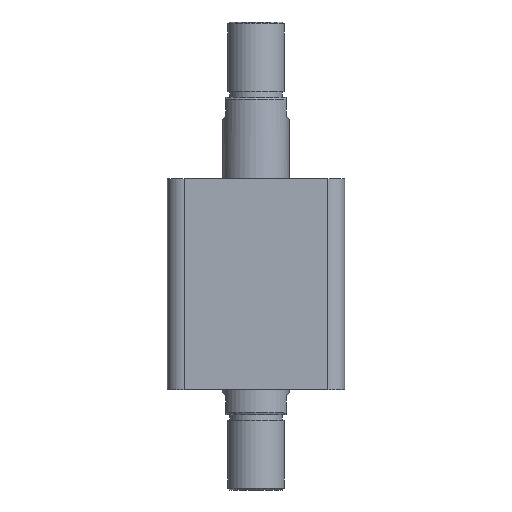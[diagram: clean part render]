
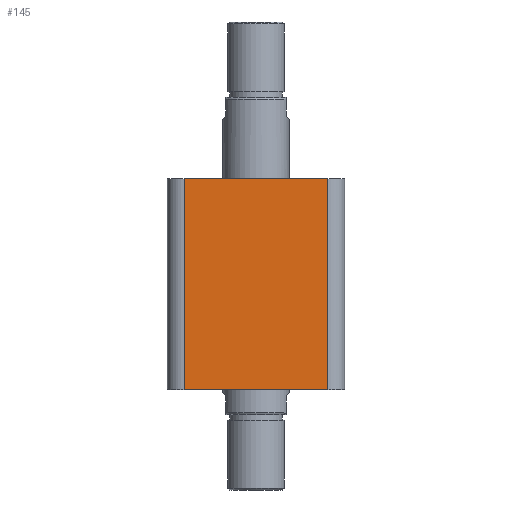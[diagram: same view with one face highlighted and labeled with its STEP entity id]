
A CAD part, front view. The second image highlights one B-rep face of the part: STEP entity #145.
In plain terms, the highlighted planar face has unit normal (0, -1, 0).
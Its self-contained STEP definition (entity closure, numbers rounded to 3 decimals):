
#145 = ADVANCED_FACE ( 'NONE', ( #509 ), #2030, .F. ) ;
#509 = FACE_OUTER_BOUND ( 'NONE', #3075, .T. ) ;
#582 = LINE ( 'NONE', #2215, #597 ) ;
#584 = VECTOR ( 'NONE', #2214, 1000. ) ;
#589 = LINE ( 'NONE', #2217, #598 ) ;
#590 = LINE ( 'NONE', #2209, #593 ) ;
#593 = VECTOR ( 'NONE', #2206, 1000. ) ;
#595 = LINE ( 'NONE', #2207, #584 ) ;
#597 = VECTOR ( 'NONE', #2216, 1000. ) ;
#598 = VECTOR ( 'NONE', #2218, 1000. ) ;
#1328 = EDGE_CURVE ( 'NONE', #3266, #3268, #590, .T. ) ;
#1329 = EDGE_CURVE ( 'NONE', #3267, #3266, #595, .T. ) ;
#1330 = EDGE_CURVE ( 'NONE', #3035, #3267, #582, .T. ) ;
#1331 = EDGE_CURVE ( 'NONE', #3035, #3268, #589, .T. ) ;
#1643 = AXIS2_PLACEMENT_3D ( 'NONE', #2028, #2032, #2033 ) ;
#2028 = CARTESIAN_POINT ( 'NONE',  ( -47., -47., 112. ) ) ;
#2030 = PLANE ( 'NONE',  #1643 ) ;
#2032 = DIRECTION ( 'NONE',  ( 0., 1., 0. ) ) ;
#2033 = DIRECTION ( 'NONE',  ( 0., 0., 1. ) ) ;
#2206 = DIRECTION ( 'NONE',  ( 0., 0., 1. ) ) ;
#2207 = CARTESIAN_POINT ( 'NONE',  ( -47., -47., 0. ) ) ;
#2209 = CARTESIAN_POINT ( 'NONE',  ( 38., -47., 112. ) ) ;
#2214 = DIRECTION ( 'NONE',  ( 1., 0., 0. ) ) ;
#2215 = CARTESIAN_POINT ( 'NONE',  ( -38., -47., 112. ) ) ;
#2216 = DIRECTION ( 'NONE',  ( 0., 0., -1. ) ) ;
#2217 = CARTESIAN_POINT ( 'NONE',  ( -47., -47., 112. ) ) ;
#2218 = DIRECTION ( 'NONE',  ( 1., 0., 0. ) ) ;
#2407 = ORIENTED_EDGE ( 'NONE', *, *, #1331, .F. ) ;
#2408 = ORIENTED_EDGE ( 'NONE', *, *, #1330, .T. ) ;
#2409 = ORIENTED_EDGE ( 'NONE', *, *, #1329, .T. ) ;
#2410 = ORIENTED_EDGE ( 'NONE', *, *, #1328, .T. ) ;
#2817 = CARTESIAN_POINT ( 'NONE',  ( -38., -47., 112. ) ) ;
#2879 = CARTESIAN_POINT ( 'NONE',  ( 38., -47., 0. ) ) ;
#2880 = CARTESIAN_POINT ( 'NONE',  ( -38., -47., 0. ) ) ;
#2881 = CARTESIAN_POINT ( 'NONE',  ( 38., -47., 112. ) ) ;
#3035 = VERTEX_POINT ( 'NONE', #2817 ) ;
#3075 = EDGE_LOOP ( 'NONE', ( #2407, #2408, #2409, #2410 ) ) ;
#3266 = VERTEX_POINT ( 'NONE', #2879 ) ;
#3267 = VERTEX_POINT ( 'NONE', #2880 ) ;
#3268 = VERTEX_POINT ( 'NONE', #2881 ) ;
